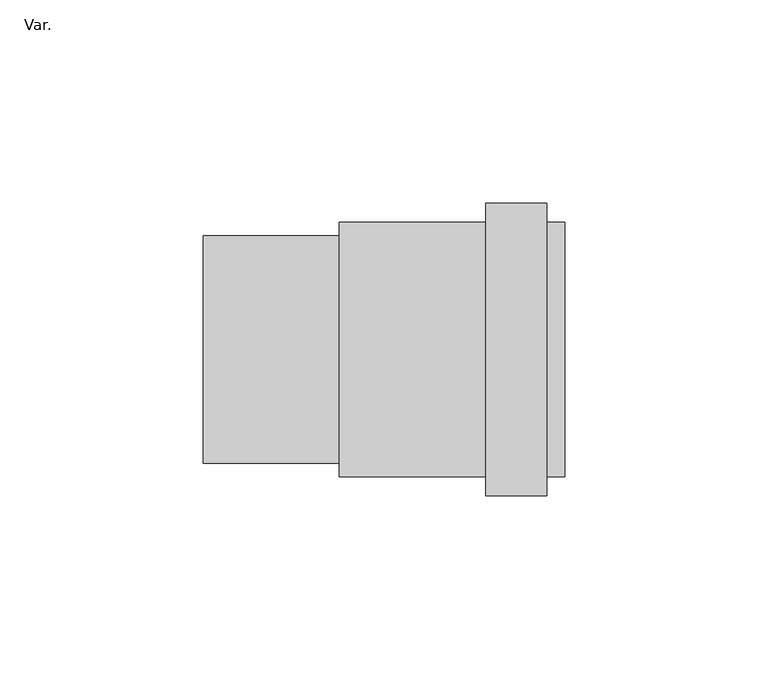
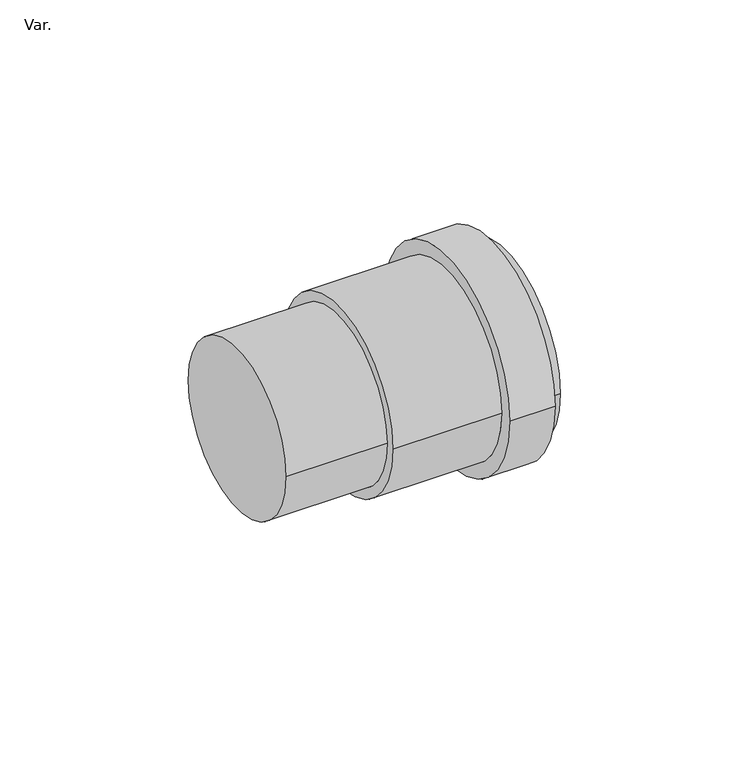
"""IFC4 building model written with IfcOpenShell, lengths in millimetres: pipe fitting geometry, PIF_HDPE plugin socket_Akatherm : Var.."""

from ifc_helpers import new_model, si_unit, frame, origin, place, context, project, spatial, circle_curve, source, transform, mapped, element, save
from ifc_brep_helpers import plane_surface, cylinder_surface, advanced_brep


def var_f4abe94e(model_context):
    return source(origin(), model_context, "Body", "AdvancedBrep", [
        advanced_brep(
        [(-17.0, -28.0, 0.0), (-17.0, 28.0, 0.0), (16.5, 28.0, 0.0), (16.5, -28.0, 0.0), (72.0, -31.3, 0.0), (72.0, 31.3, 0.0), (16.5, -31.3, 0.0), (16.5, 31.3, 0.0), (67.5, -31.3, 0.0), (67.5, 31.3, 0.0), (52.5, 31.3, 0.0), (52.5, -31.3, 0.0), (67.5, -36.0, 0.0), (67.5, 36.0, 0.0), (52.5, -36.0, 0.0), (52.5, 36.0, 0.0)],
        [
            (0, 1, circle_curve(frame((-17.0, 0.0, 0.0), z_axis=(-1.0, 0.0, 0.0), x_axis=(0.0, 1.0, 0.0)), 28.0)),
            (1, 0, circle_curve(frame((-17.0, 0.0, 0.0), z_axis=(-1.0, 0.0, 0.0), x_axis=(0.0, 1.0, 0.0)), 28.0)),
            (1, 2),
            (2, 3, circle_curve(frame((16.5, 0.0, 0.0), z_axis=(-1.0, 0.0, 0.0), x_axis=(0.0, 1.0, 0.0)), 28.0)),
            (3, 0),
            (3, 2, circle_curve(frame((16.5, 0.0, 0.0), z_axis=(-1.0, 0.0, 0.0), x_axis=(0.0, 1.0, 0.0)), 28.0)),
            (4, 5, circle_curve(frame((72.0, 0.0, 0.0), z_axis=(1.0, 0.0, 0.0), x_axis=(0.0, 1.0, 0.0)), 31.3)),
            (5, 4, circle_curve(frame((72.0, 0.0, 0.0), z_axis=(1.0, 0.0, 0.0), x_axis=(0.0, 1.0, 0.0)), 31.3)),
            (6, 7, circle_curve(frame((16.5, 0.0, 0.0), z_axis=(-1.0, 0.0, 0.0), x_axis=(0.0, 1.0, 0.0)), 31.3)),
            (7, 6, circle_curve(frame((16.5, 0.0, 0.0), z_axis=(-1.0, 0.0, 0.0), x_axis=(0.0, 1.0, 0.0)), 31.3)),
            (4, 8),
            (8, 9, circle_curve(frame((67.5, 0.0, 0.0), z_axis=(1.0, 0.0, 0.0), x_axis=(0.0, 1.0, 0.0)), 31.3)),
            (9, 5),
            (7, 10),
            (10, 11, circle_curve(frame((52.5, 0.0, 0.0), z_axis=(-1.0, 0.0, 0.0), x_axis=(0.0, 1.0, 0.0)), 31.3)),
            (11, 6),
            (9, 8, circle_curve(frame((67.5, 0.0, 0.0), z_axis=(1.0, 0.0, 0.0), x_axis=(0.0, 1.0, 0.0)), 31.3)),
            (11, 10, circle_curve(frame((52.5, 0.0, 0.0), z_axis=(-1.0, 0.0, 0.0), x_axis=(0.0, 1.0, 0.0)), 31.3)),
            (12, 13, circle_curve(frame((67.5, 0.0, 0.0), z_axis=(1.0, 0.0, 0.0), x_axis=(0.0, 1.0, 0.0)), 36.0)),
            (13, 12, circle_curve(frame((67.5, 0.0, 0.0), z_axis=(1.0, 0.0, 0.0), x_axis=(0.0, 1.0, 0.0)), 36.0)),
            (14, 15, circle_curve(frame((52.5, 0.0, 0.0), z_axis=(-1.0, 0.0, 0.0), x_axis=(0.0, 1.0, 0.0)), 36.0)),
            (15, 14, circle_curve(frame((52.5, 0.0, 0.0), z_axis=(-1.0, 0.0, 0.0), x_axis=(0.0, 1.0, 0.0)), 36.0)),
            (12, 14),
            (15, 13),
        ],
        [
            plane_surface(frame((-17.0, 28.0, 0.0), z_axis=(-1.0, 0.0, 0.0), x_axis=(0.0, 0.0, -1.0))),
            cylinder_surface(frame((-17.0, 0.0, 0.0), z_axis=(1.0, 0.0, 0.0), x_axis=(0.0, 1.0, 0.0)), 28.0),
            plane_surface(frame((72.0, 31.3, 0.0), z_axis=(1.0, 0.0, 0.0), x_axis=(0.0, 0.0, 1.0))),
            plane_surface(frame((16.5, 31.3, 0.0), z_axis=(-1.0, 0.0, 0.0), x_axis=(0.0, 0.0, -1.0))),
            cylinder_surface(frame((16.5, 0.0, 0.0), z_axis=(1.0, 0.0, 0.0), x_axis=(0.0, 1.0, 0.0)), 31.3),
            plane_surface(frame((67.5, 36.0, 0.0), z_axis=(1.0, 0.0, 0.0), x_axis=(0.0, 0.0, 1.0))),
            plane_surface(frame((52.5, 36.0, 0.0), z_axis=(-1.0, 0.0, 0.0), x_axis=(0.0, 0.0, -1.0))),
            cylinder_surface(frame((52.5, 0.0, 0.0), z_axis=(1.0, 0.0, 0.0), x_axis=(0.0, 1.0, 0.0)), 36.0),
        ],
        [
            (0, [[1, 2]]),
            (1, [[-2, 3, 4, 5]]),
            (1, [[-1, -5, 6, -3]]),
            (2, [[7, 8]]),
            (3, [[9, 10], [-4, -6]]),
            (4, [[-7, 11, 12, 13]]),
            (4, [[-10, 14, 15, 16]]),
            (4, [[-8, -13, 17, -11]]),
            (4, [[-9, -16, 18, -14]]),
            (5, [[19, 20], [-12, -17]]),
            (6, [[21, 22], [-15, -18]]),
            (7, [[-19, 23, -22, 24]]),
            (7, [[-20, -24, -21, -23]]),
        ],
    ),
    ])


if __name__ == "__main__":
    model = new_model("IFC4")
    model_context = context("Model", 3, world=origin())
    ifc_project = project(units=[si_unit("LENGTHUNIT", "METRE", prefix="MILLI")], contexts=[model_context])
    site = spatial("IfcSite", under=ifc_project)
    building = spatial("IfcBuilding", under=site)
    placement = place(None, origin())
    var_shape = var_f4abe94e(model_context)
    element("IfcPipeFitting", 1, ObjectType="PIF_HDPE plugin socket_Akatherm : Var.", at=placement, inside=building, context=model_context, shape_type="MappedRepresentation", body=[
        mapped(var_shape, transform((0.0, 0.0, 0.0), x_axis=(1.0, 0.0, 0.0), y_axis=(0.0, 1.0, 0.0), z_axis=(0.0, 0.0, 1.0))),
    ])
    save(model, "model.ifc")
